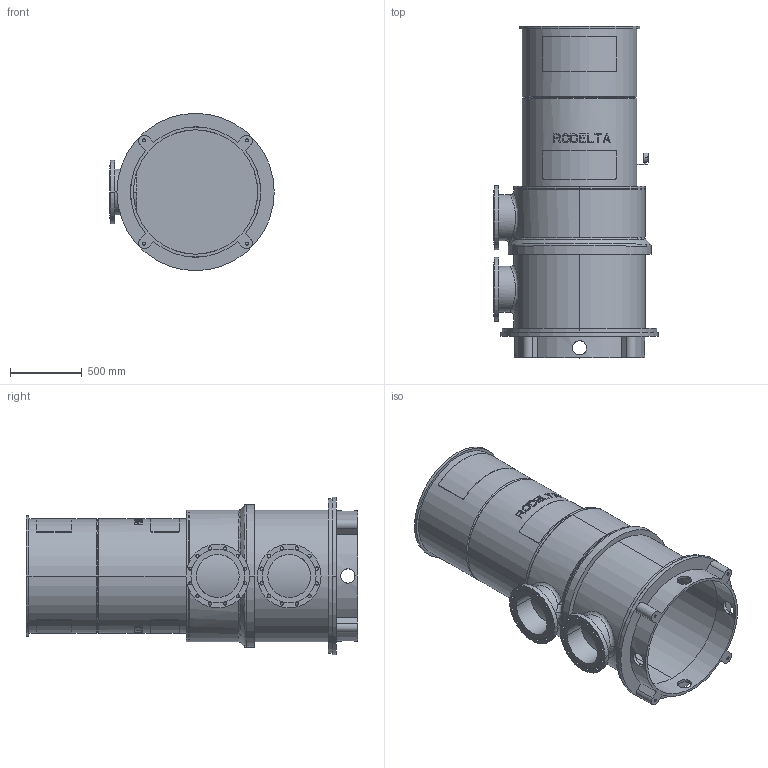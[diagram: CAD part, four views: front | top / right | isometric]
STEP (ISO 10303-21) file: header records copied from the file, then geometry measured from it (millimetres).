
FILE_DESCRIPTION((''),'2;1');
FILE_NAME('LS12_1TR_0GR','2023-08-10T',('Lyritlocal'),(''),'PRO/ENGINEER BY PARAMETRIC TECHNOLOGY CORPORATION, 2016360','PRO/ENGINEER BY PARAMETRIC TECHNOLOGY CORPORATION, 2016360','');
FILE_SCHEMA(('CONFIG_CONTROL_DESIGN'));
Length unit declared in the file: millimetre
Products named in the file (1): LS12_1TR_0GR
Bounding box: 1150 x 2320 x 1100 mm (x, y, z)
Volume: 127220441.6 mm3; surface area: 16689511.8 mm2
Topology: 3 solids, 7 shells, 559 faces, 1467 edges, 971 vertices
Faces by surface type: plane 335, cylinder 198, cone 13, bspline 10, torus 3
Entity records: 18684 total; most frequent: CARTESIAN_POINT 5086, ORIENTED_EDGE 2918, DIRECTION 2627, EDGE_CURVE 1467, AXIS2_PLACEMENT_3D 998, VERTEX_POINT 971, EDGE_LOOP 676, VECTOR 631
